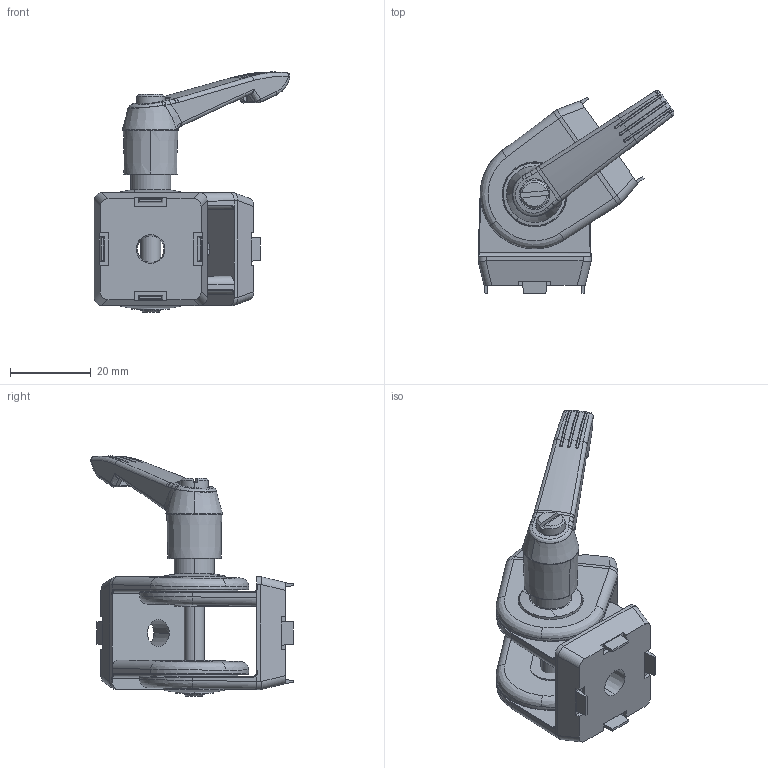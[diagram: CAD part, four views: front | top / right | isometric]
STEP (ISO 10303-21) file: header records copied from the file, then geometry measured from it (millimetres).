
FILE_DESCRIPTION(('STEP AP214'),'1');
FILE_NAME('C:/TPO v2/SharedFS/Outgoing/fath_093gf30a.stp','2016-04-07T02:24:00',('TraceParts'),('TraceParts S.A.'),'Spatial InterOp 3D',' ',' ');
FILE_SCHEMA(('automotive_design'));
Length unit declared in the file: millimetre
Products named in the file (9): Importiert1; Importiert3; Importiert6; Importiert9; Importiert5; Importiert7; NONE; Importiert8; Importiert2
Bounding box: 48.51 x 50.15 x 59.49 mm (x, y, z)
Volume: 22762.6 mm3; surface area: 17241.6 mm2
Topology: 9 solids, 10 shells, 728 faces, 1808 edges, 1115 vertices
Faces by surface type: plane 222, cylinder 164, bspline 118, torus 106, cone 90, sphere 28
Entity records: 33216 total; most frequent: CARTESIAN_POINT 11170, ORIENTED_EDGE 3580, DIRECTION 3047, EDGE_CURVE 1790, AXIS2_PLACEMENT_3D 1218, VERTEX_POINT 1115, EDGE_LOOP 783, STYLED_ITEM 737
